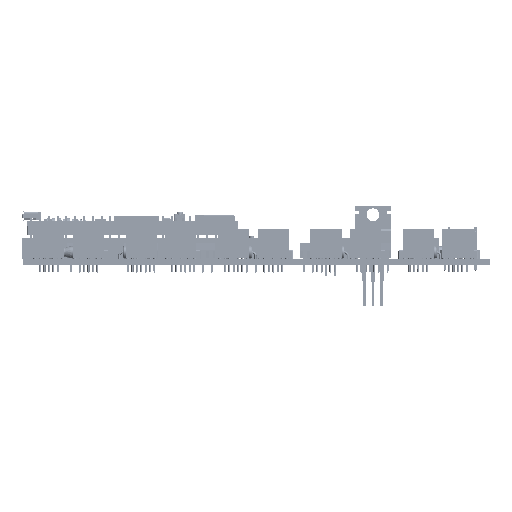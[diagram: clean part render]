
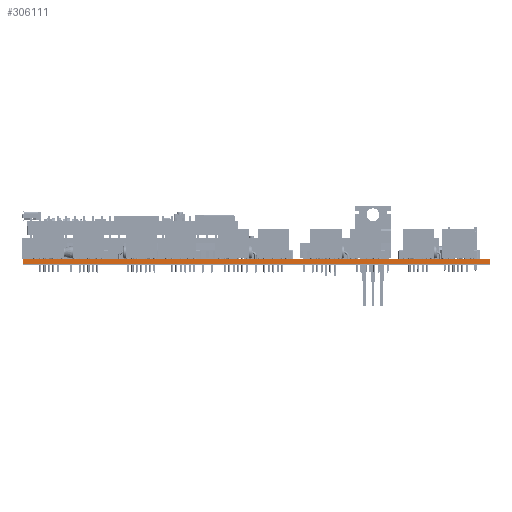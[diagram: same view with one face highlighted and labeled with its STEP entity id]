
A CAD part, front view. The second image highlights one B-rep face of the part: STEP entity #306111.
In plain terms, the highlighted planar face has unit normal (0, -1, 0).
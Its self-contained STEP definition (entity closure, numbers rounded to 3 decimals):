
#9960=PLANE('',#326893);
#21691=FACE_OUTER_BOUND('',#39788,.T.);
#39788=EDGE_LOOP('',(#212290,#212291,#212292,#212293));
#63311=LINE('',#452624,#94137);
#63312=LINE('',#452627,#94138);
#63313=LINE('',#452629,#94139);
#63314=LINE('',#452630,#94140);
#94137=VECTOR('',#359503,10.);
#94138=VECTOR('',#359506,10.);
#94139=VECTOR('',#359507,10.);
#94140=VECTOR('',#359508,10.);
#138329=VERTEX_POINT('',#452620);
#138330=VERTEX_POINT('',#452622);
#138331=VERTEX_POINT('',#452626);
#138332=VERTEX_POINT('',#452628);
#167836=EDGE_CURVE('',#138329,#138330,#63311,.T.);
#167837=EDGE_CURVE('',#138331,#138329,#63312,.T.);
#167838=EDGE_CURVE('',#138332,#138330,#63313,.T.);
#167839=EDGE_CURVE('',#138331,#138332,#63314,.T.);
#212290=ORIENTED_EDGE('',*,*,#167837,.T.);
#212291=ORIENTED_EDGE('',*,*,#167836,.T.);
#212292=ORIENTED_EDGE('',*,*,#167838,.F.);
#212293=ORIENTED_EDGE('',*,*,#167839,.F.);
#306111=ADVANCED_FACE('',(#21691),#9960,.T.);
#326893=AXIS2_PLACEMENT_3D('',#452625,#359504,#359505);
#359503=DIRECTION('',(0.,0.,1.));
#359504=DIRECTION('center_axis',(0.,-1.,0.));
#359505=DIRECTION('ref_axis',(1.,0.,0.));
#359506=DIRECTION('',(1.,0.,0.));
#359507=DIRECTION('',(1.,0.,0.));
#359508=DIRECTION('',(0.,0.,1.));
#452620=CARTESIAN_POINT('',(135.,0.,0.));
#452622=CARTESIAN_POINT('',(135.,0.,1.5));
#452624=CARTESIAN_POINT('',(135.,0.,0.));
#452625=CARTESIAN_POINT('Origin',(0.,0.,0.));
#452626=CARTESIAN_POINT('',(0.,0.,0.));
#452627=CARTESIAN_POINT('',(0.,0.,0.));
#452628=CARTESIAN_POINT('',(0.,0.,1.5));
#452629=CARTESIAN_POINT('',(0.,0.,1.5));
#452630=CARTESIAN_POINT('',(0.,0.,0.));
